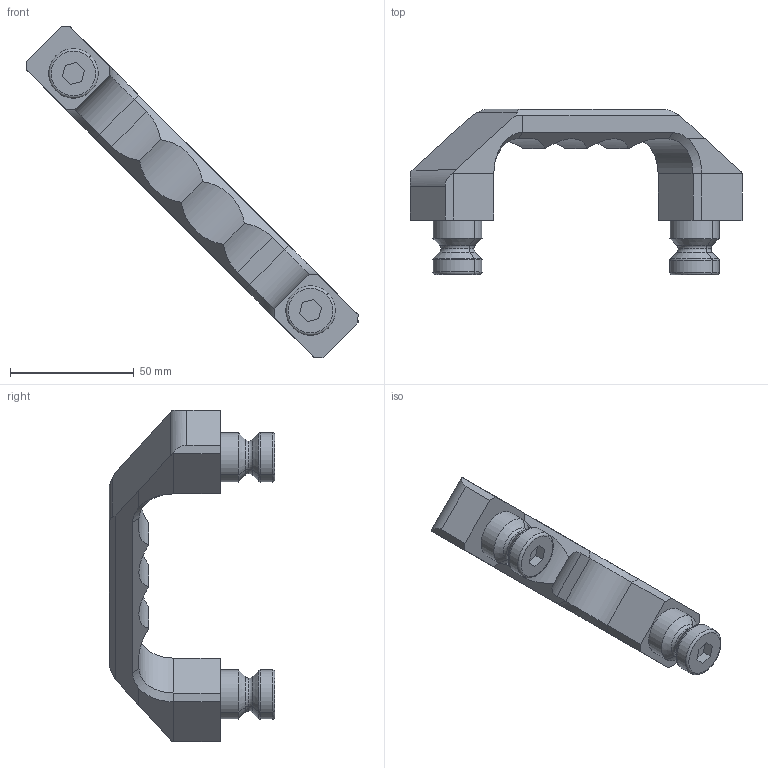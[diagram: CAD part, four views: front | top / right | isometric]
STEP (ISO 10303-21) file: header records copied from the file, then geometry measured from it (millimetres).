
FILE_DESCRIPTION (( 'STEP AP203' ), '1' );
FILE_NAME ('46081.STEP', '2016-11-28T11:09:47', ( '' ), ( '' ), 'SwSTEP 2.0', 'SolidWorks 2015', '' );
FILE_SCHEMA (( 'CONFIG_CONTROL_DESIGN' ));
Length unit declared in the file: millimetre
Products named in the file (1): 46081
Bounding box: 134.38 x 66.98 x 134.35 mm (x, y, z)
Volume: 81117.6 mm3; surface area: 22158.5 mm2
Topology: 3 solids, 3 shells, 143 faces, 352 edges, 215 vertices
Faces by surface type: plane 65, cone 32, cylinder 30, torus 16
Entity records: 4277 total; most frequent: CARTESIAN_POINT 857, DIRECTION 710, ORIENTED_EDGE 688, EDGE_CURVE 344, AXIS2_PLACEMENT_3D 248, VERTEX_POINT 215, LINE 214, VECTOR 214
